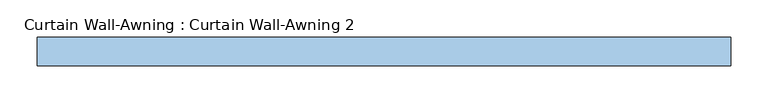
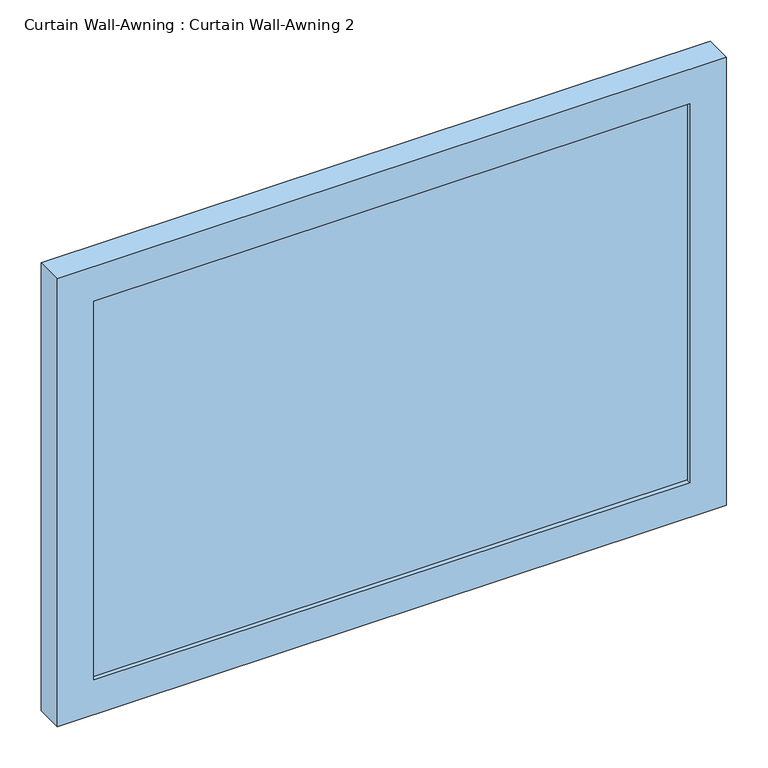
"""IFC4 building model written with IfcOpenShell, lengths in millimetres: window geometry, Curtain Wall-Awning : Curtain Wall-Awning 2."""

from ifc_helpers import new_model, si_unit, frame, origin, place, context, project, spatial, polyline, outline, extrude, source, transform, mapped, element, save


def curtain_wall_awning_curtain_wall_awning_2_ca50caa1(model_context):
    return source(origin(), model_context, "Body", "SweptSolid", [
        extrude(outline(polyline([(415.0779682, 19.05), (415.0779682, 6.35), (-415.0779682, 6.35), (-415.0779682, 19.05), (415.0779682, 19.05)])), frame((0.0, 0.0, 50.8), z_axis=(0.0, 0.0, 1.0), x_axis=(1.0, 0.0, 0.0)), (0.0, 0.0, 1.0), 557.907202),
        extrude(outline(polyline([(659.507202, -465.8779682), (0.0, -465.8779682), (0.0, 465.8779682), (659.507202, 465.8779682), (659.507202, -465.8779682)]), holes=[polyline([(608.707202, -415.0779682), (608.707202, 415.0779682), (50.8, 415.0779682), (50.8, -415.0779682), (608.707202, -415.0779682)])]), frame((0.0, 0.0, 0.0), z_axis=(0.0, 1.0, 0.0), x_axis=(0.0, 0.0, 1.0)), (0.0, 0.0, 1.0), 38.1),
    ])


if __name__ == "__main__":
    model = new_model("IFC4")
    model_context = context("Model", 3, world=origin())
    ifc_project = project(units=[si_unit("LENGTHUNIT", "METRE", prefix="MILLI")], contexts=[model_context])
    site = spatial("IfcSite", under=ifc_project)
    building = spatial("IfcBuilding", under=site)
    placement = place(None, origin())
    curtain_wall_awning_curtain_wall_awning_2_shape = curtain_wall_awning_curtain_wall_awning_2_ca50caa1(model_context)
    element("IfcWindow", 1, ObjectType="Curtain Wall-Awning : Curtain Wall-Awning 2", at=placement, inside=building, context=model_context, shape_type="MappedRepresentation", body=[
        mapped(curtain_wall_awning_curtain_wall_awning_2_shape, transform((0.0, 0.0, 0.0), x_axis=(1.0, 0.0, 0.0), y_axis=(0.0, 1.0, 0.0), z_axis=(0.0, 0.0, 1.0))),
    ])
    save(model, "model.ifc")
